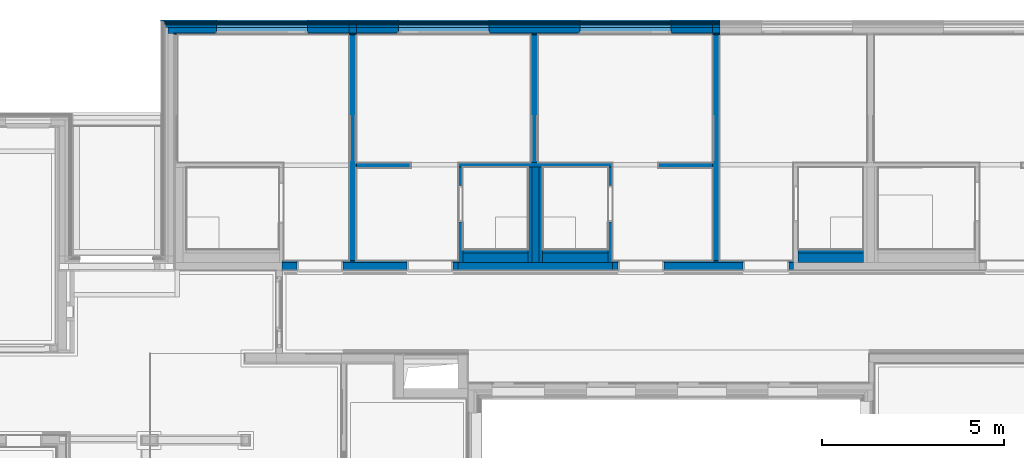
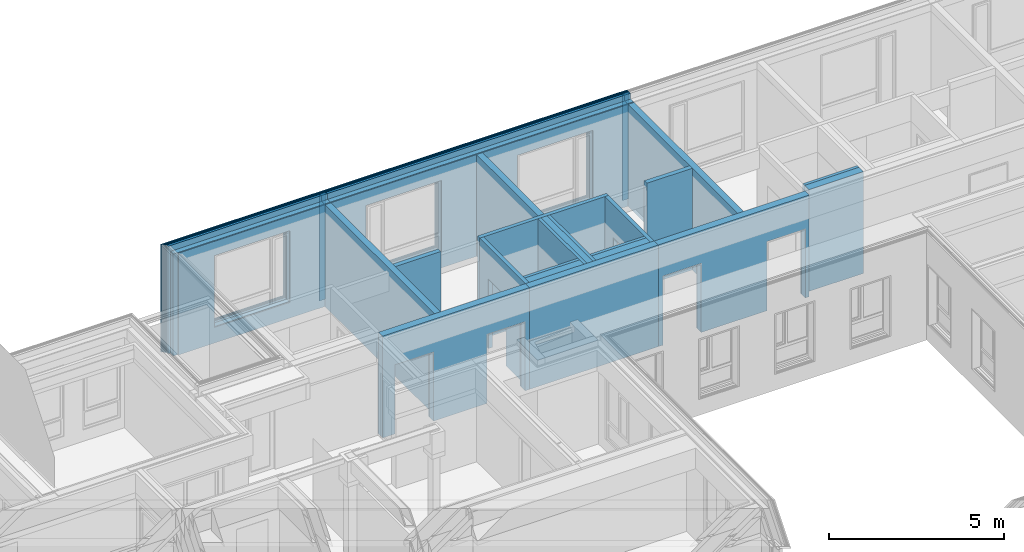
# One storey, part 55 of 222: 50 walls, 31 openings.
"""IFC4 building model written with IfcOpenShell, lengths in metres."""

from ifc_helpers import new_model, entity, si_unit, converted_unit, derived_unit, frame, frame_2d, origin, origin_with_axes, place, context, subcontext, project, spatial, polyline, rectangle, outline, extrude, material, element, save


model = new_model("IFC4")

# Units and contexts
model_context = context("Model", 3, precision=1e-05, world=origin())
body_context = subcontext(model_context, "Body", "Model", "MODEL_VIEW")
ifc_project = project(units=[si_unit("LENGTHUNIT", "METRE"), si_unit("AREAUNIT", "SQUARE_METRE"), si_unit("VOLUMEUNIT", "CUBIC_METRE"), si_unit("MASSUNIT", "GRAM", prefix="KILO"), converted_unit("PLANEANGLEUNIT", "DEGREE", entity("IfcPlaneAngleMeasure", 0.0174532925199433), si_unit("PLANEANGLEUNIT", "RADIAN"), dimensions=[0, 0, 0, 0, 0, 0, 0]), derived_unit("THERMALTRANSMITTANCEUNIT", [(si_unit("POWERUNIT", "WATT"), 1), (si_unit("THERMODYNAMICTEMPERATUREUNIT", "KELVIN"), -1), (si_unit("LENGTHUNIT", "METRE"), -2)]), derived_unit("VOLUMETRICFLOWRATEUNIT", [(si_unit("LENGTHUNIT", "METRE"), 3), (converted_unit("TIMEUNIT", "hour", entity("IfcTimeMeasure", 3600.0), si_unit("TIMEUNIT", "SECOND"), dimensions=[0, 0, 1, 0, 0, 0, 0]), -1), (si_unit("LENGTHUNIT", "METRE"), -1)])], contexts=[model_context])

# Site, building, storey
site_placement = place(None, origin())
site = spatial("IfcSite", under=ifc_project, at=site_placement, Name="Psychiatrie Neubau Wunstorf", CompositionType="ELEMENT")
building_placement = place(site_placement, origin())
building = spatial("IfcBuilding", under=site, at=building_placement, Name="Neubau H2 Stationsgebäude", CompositionType="ELEMENT")
storey_placement = place(building_placement, frame((0.0, 0.0, 3.6)))
storey = spatial("IfcBuildingStorey", under=building, at=storey_placement, Name="H2 Ebene +1", CompositionType="ELEMENT", Elevation=3.6)

# Walls
ifc_material_1 = material(Name="WA-LB")
wall_1_placement = place(storey_placement, frame((75.9, 31.614, 0.0)))
element("IfcWall", 1, at=wall_1_placement, inside=storey, material=ifc_material_1, Name="2x Gipsfaserplatte", context=body_context, shape_type="SweptSolid", body=[
    extrude(rectangle(XDim=0.2, YDim=0.036, at=frame_2d((0.1, 0.018), x_axis=(1.0, 0.0))), origin_with_axes(), (0.0, 0.0, 1.0), 3.55),
])
ifc_material_2 = material(Name="WA-DL")
wall_2_placement = place(storey_placement, frame((75.9, 31.65, 0.0)))
element("IfcWall", 2, at=wall_2_placement, inside=storey, material=ifc_material_2, Name="Holzständer + Zwischendämmung", context=body_context, shape_type="SweptSolid", body=[
    extrude(rectangle(XDim=0.2, YDim=0.16, at=frame_2d((0.1, 0.08), x_axis=(1.0, 0.0))), origin_with_axes(), (0.0, 0.0, 1.0), 3.55),
])
ifc_material_3 = material(Name="WA-DL")
wall_3_placement = place(storey_placement, frame((75.9, 31.81, 0.0)))
element("IfcWall", 3, at=wall_3_placement, inside=storey, material=ifc_material_3, Name="Staffel + Zwischendämmung", context=body_context, shape_type="SweptSolid", body=[
    extrude(rectangle(XDim=0.2, YDim=0.08, at=frame_2d((0.1, 0.04), x_axis=(1.0, 0.0))), origin_with_axes(), (0.0, 0.0, 1.0), 3.75),
])
ifc_material_4 = material(Name="WA-LB")
wall_4_placement = place(storey_placement, frame((75.9, 31.89, 0.0)))
element("IfcWall", 4, at=wall_4_placement, inside=storey, material=ifc_material_4, context=body_context, shape_type="SweptSolid", body=[
    extrude(rectangle(XDim=0.2, YDim=0.036, at=frame_2d((0.1, 0.018), x_axis=(1.0, 0.0))), origin_with_axes(), (0.0, 0.0, 1.0), 3.75),
])
ifc_material_5 = material(Name="WA-KL")
wall_5_placement = place(storey_placement, frame((75.9, 31.926, 0.0)))
element("IfcWall", 5, at=wall_5_placement, inside=storey, material=ifc_material_5, Name="Konterlattung", context=body_context, shape_type="SweptSolid", body=[
    extrude(rectangle(XDim=0.2, YDim=0.024, at=frame_2d((0.1, 0.012), x_axis=(1.0, 0.0))), origin_with_axes(), (0.0, 0.0, 1.0), 3.75),
])
ifc_material_6 = material(Name="WA-TL")
wall_6_placement = place(storey_placement, frame((75.9, 31.95, 0.0)))
element("IfcWall", 6, at=wall_6_placement, inside=storey, material=ifc_material_6, Name="Traglattung", context=body_context, shape_type="SweptSolid", body=[
    extrude(rectangle(XDim=0.2, YDim=0.024, at=frame_2d((0.1, 0.012), x_axis=(1.0, 0.0))), origin_with_axes(), (0.0, 0.0, 1.0), 3.75),
])
ifc_material_7 = material(Name="WA-HS")
wall_7_placement = place(storey_placement, frame((75.9, 31.974, 0.0)))
element("IfcWall", 7, at=wall_7_placement, inside=storey, material=ifc_material_7, Name="Holzschindel", context=body_context, shape_type="SweptSolid", body=[
    extrude(rectangle(XDim=0.2, YDim=0.042, at=frame_2d((0.1, 0.021), x_axis=(1.0, 0.0))), origin_with_axes(), (0.0, 0.0, 1.0), 3.75),
])
ifc_material_8 = material(Name="WA-LB")
wall_8_placement = place(storey_placement, frame((85.9, 31.614, 0.0)))
element("IfcWall", 8, at=wall_8_placement, inside=storey, material=ifc_material_8, Name="2x Gipsfaserplatte", context=body_context, shape_type="SweptSolid", body=[
    extrude(rectangle(XDim=0.2, YDim=0.036, at=frame_2d((0.1, 0.018), x_axis=(1.0, 0.0))), origin_with_axes(), (0.0, 0.0, 1.0), 3.55),
])
ifc_material_9 = material(Name="WA-HD")
wall_9_placement = place(storey_placement, frame((85.9, 31.65, 0.0)))
element("IfcWall", 9, at=wall_9_placement, inside=storey, material=ifc_material_9, Name="Holzständer + Zwischendämmung", context=body_context, shape_type="SweptSolid", body=[
    extrude(rectangle(XDim=0.2, YDim=0.16, at=frame_2d((0.1, 0.08), x_axis=(1.0, 0.0))), origin_with_axes(), (0.0, 0.0, 1.0), 3.55),
])
ifc_material_10 = material(Name="WA-DL")
wall_10_placement = place(storey_placement, frame((85.9, 31.81, 0.0)))
element("IfcWall", 10, at=wall_10_placement, inside=storey, material=ifc_material_10, Name="Staffel + Zwischendämmung", context=body_context, shape_type="SweptSolid", body=[
    extrude(rectangle(XDim=0.2, YDim=0.08, at=frame_2d((0.1, 0.04), x_axis=(1.0, 0.0))), origin_with_axes(), (0.0, 0.0, 1.0), 3.75),
])
ifc_material_11 = material(Name="WA-LB")
wall_11_placement = place(storey_placement, frame((85.9, 31.89, 0.0)))
element("IfcWall", 11, at=wall_11_placement, inside=storey, material=ifc_material_11, context=body_context, shape_type="SweptSolid", body=[
    extrude(rectangle(XDim=0.2, YDim=0.036, at=frame_2d((0.1, 0.018), x_axis=(1.0, 0.0))), origin_with_axes(), (0.0, 0.0, 1.0), 3.75),
])
ifc_material_12 = material(Name="WA-KL")
wall_12_placement = place(storey_placement, frame((85.9, 31.926, 0.0)))
element("IfcWall", 12, at=wall_12_placement, inside=storey, material=ifc_material_12, Name="Konterlattung", context=body_context, shape_type="SweptSolid", body=[
    extrude(rectangle(XDim=0.2, YDim=0.024, at=frame_2d((0.1, 0.012), x_axis=(1.0, 0.0))), origin_with_axes(), (0.0, 0.0, 1.0), 3.75),
])
ifc_material_13 = material(Name="WA-TL")
wall_13_placement = place(storey_placement, frame((85.9, 31.95, 0.0)))
element("IfcWall", 13, at=wall_13_placement, inside=storey, material=ifc_material_13, Name="Traglattung", context=body_context, shape_type="SweptSolid", body=[
    extrude(rectangle(XDim=0.2, YDim=0.024, at=frame_2d((0.1, 0.012), x_axis=(1.0, 0.0))), origin_with_axes(), (0.0, 0.0, 1.0), 3.75),
])
ifc_material_14 = material(Name="WA-HS")
wall_14_placement = place(storey_placement, frame((85.9, 31.974, 0.0)))
element("IfcWall", 14, at=wall_14_placement, inside=storey, material=ifc_material_14, Name="Holzschindel", context=body_context, shape_type="SweptSolid", body=[
    extrude(rectangle(XDim=0.2, YDim=0.042, at=frame_2d((0.1, 0.021), x_axis=(1.0, 0.0))), origin_with_axes(), (0.0, 0.0, 1.0), 3.75),
])

# Wall, opening
ifc_material_15 = material(Name="WA-LB")
wall_15_placement = place(storey_placement, frame((71.075, 31.614, 0.0), z_axis=(0.0, 0.0, 1.0), x_axis=(1.0, -3.01594097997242e-15, 0.0)))
wall_15 = element("IfcWall", 15, at=wall_15_placement, inside=storey, material=ifc_material_15, context=body_context, shape_type="SweptSolid", body=[
    extrude(rectangle(XDim=4.82499999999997, YDim=0.036, at=frame_2d((2.41249999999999, 0.018), x_axis=(1.0, 0.0))), origin_with_axes(), (0.0, 0.0, 1.0), 3.55),
])
opening_1_placement = place(wall_15_placement, frame((1.17499999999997, 0.0, 0.55), z_axis=(0.0, 1.0, 0.0), x_axis=(0.0, 0.0, 1.0)))
element("IfcOpeningElement", 16, at=opening_1_placement, cuts=wall_15, Name="Fensteröffnung", ObjectType="Opening", context=body_context, shape_type="SweptSolid", body=[
    extrude(outline(polyline([(2.5, 2.5), (2.5, 0.0), (0.0, 0.0), (0.0, 2.5), (2.5, 2.5)])), origin_with_axes(), (0.0, 0.0, 1.0), 0.0360000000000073),
])

ifc_material_16 = material(Name="WA-HD")
wall_16_placement = place(storey_placement, frame((70.915, 31.65, 0.0), z_axis=(0.0, 0.0, 1.0), x_axis=(1.0, -2.91914046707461e-15, 0.0)))
wall_16 = element("IfcWall", 17, at=wall_16_placement, inside=storey, material=ifc_material_16, context=body_context, shape_type="SweptSolid", body=[
    extrude(rectangle(XDim=4.98499999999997, YDim=0.16, at=frame_2d((2.49249999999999, 0.08), x_axis=(1.0, 0.0))), origin_with_axes(), (0.0, 0.0, 1.0), 3.55),
])
opening_2_placement = place(wall_16_placement, frame((1.33499999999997, 0.0, 0.55), z_axis=(-2.8421709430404e-15, 1.0, 0.0), x_axis=(0.0, 0.0, 1.0)))
element("IfcOpeningElement", 18, at=opening_2_placement, cuts=wall_16, Name="Fensteröffnung", ObjectType="Opening", context=body_context, shape_type="SweptSolid", body=[
    extrude(outline(polyline([(2.5, 2.5), (2.5, 0.0), (0.0, 0.0), (0.0, 2.5), (2.5, 2.5)])), origin_with_axes(), (0.0, 0.0, 1.0), 0.16),
])

ifc_material_17 = material(Name="WA-DL")
wall_17_placement = place(storey_placement, frame((70.835, 31.81, 0.0), z_axis=(0.0, 0.0, 1.0), x_axis=(1.0, -2.87303360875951e-15, 0.0)))
wall_17 = element("IfcWall", 19, at=wall_17_placement, inside=storey, material=ifc_material_17, context=body_context, shape_type="SweptSolid", body=[
    extrude(rectangle(XDim=5.06499999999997, YDim=0.08, at=frame_2d((2.53249999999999, 0.04), x_axis=(1.0, 0.0))), origin_with_axes(), (0.0, 0.0, 1.0), 3.75),
])
opening_3_placement = place(wall_17_placement, frame((1.41499999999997, 0.0, 0.55), z_axis=(-2.8421709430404e-15, 1.0, 0.0), x_axis=(0.0, 0.0, 1.0)))
element("IfcOpeningElement", 20, at=opening_3_placement, cuts=wall_17, Name="Fensteröffnung", ObjectType="Opening", context=body_context, shape_type="SweptSolid", body=[
    extrude(outline(polyline([(2.5, 2.5), (2.5, 0.0), (0.0, 0.0), (0.0, 2.5), (2.5, 2.5)])), origin_with_axes(), (0.0, 0.0, 1.0), 0.08),
])

ifc_material_18 = material(Name="WA-LB")
wall_18_placement = place(storey_placement, frame((70.799, 31.89, 0.0), z_axis=(0.0, 0.0, 1.0), x_axis=(1.0, -2.85275734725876e-15, 0.0)))
wall_18 = element("IfcWall", 21, at=wall_18_placement, inside=storey, material=ifc_material_18, context=body_context, shape_type="SweptSolid", body=[
    extrude(rectangle(XDim=5.10099999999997, YDim=0.036, at=frame_2d((2.55049999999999, 0.018), x_axis=(1.0, 0.0))), origin_with_axes(), (0.0, 0.0, 1.0), 3.75),
])
opening_4_placement = place(wall_18_placement, frame((1.45099999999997, 0.0, 0.55), z_axis=(0.0, 1.0, 0.0), x_axis=(0.0, 0.0, 1.0)))
element("IfcOpeningElement", 22, at=opening_4_placement, cuts=wall_18, Name="Fensteröffnung", ObjectType="Opening", context=body_context, shape_type="SweptSolid", body=[
    extrude(outline(polyline([(2.5, 2.5), (2.5, 0.0), (0.0, 0.0), (0.0, 2.5), (2.5, 2.5)])), origin_with_axes(), (0.0, 0.0, 1.0), 0.036),
])

ifc_material_19 = material(Name="WA-KL")
wall_19_placement = place(storey_placement, frame((70.775, 31.926, 0.0), z_axis=(0.0, 0.0, 1.0), x_axis=(1.0, -2.83939809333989e-15, 0.0)))
wall_19 = element("IfcWall", 23, at=wall_19_placement, inside=storey, material=ifc_material_19, context=body_context, shape_type="SweptSolid", body=[
    extrude(rectangle(XDim=5.12499999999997, YDim=0.024, at=frame_2d((2.56249999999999, 0.012), x_axis=(1.0, 0.0))), origin_with_axes(), (0.0, 0.0, 1.0), 3.75),
])
opening_5_placement = place(wall_19_placement, frame((1.47499999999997, 0.0, 0.55), z_axis=(0.0, 1.0, 0.0), x_axis=(0.0, 0.0, 1.0)))
element("IfcOpeningElement", 24, at=opening_5_placement, cuts=wall_19, Name="Fensteröffnung", ObjectType="Opening", context=body_context, shape_type="SweptSolid", body=[
    extrude(outline(polyline([(2.5, 2.5), (2.5, 0.0), (0.0, 0.0), (0.0, 2.5), (2.5, 2.5)])), origin_with_axes(), (0.0, 0.0, 1.0), 0.024),
])

ifc_material_20 = material(Name="WA-TL")
wall_20_placement = place(storey_placement, frame((70.751, 31.95, 0.0), z_axis=(0.0, 0.0, 1.0), x_axis=(1.0, -2.82616337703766e-15, 0.0)))
wall_20 = element("IfcWall", 25, at=wall_20_placement, inside=storey, material=ifc_material_20, context=body_context, shape_type="SweptSolid", body=[
    extrude(rectangle(XDim=5.14899999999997, YDim=0.024, at=frame_2d((2.57449999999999, 0.012), x_axis=(1.0, 0.0))), origin_with_axes(), (0.0, 0.0, 1.0), 3.75),
])
opening_6_placement = place(wall_20_placement, frame((1.49899999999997, 0.0, 0.55), z_axis=(0.0, 1.0, 0.0), x_axis=(0.0, 0.0, 1.0)))
element("IfcOpeningElement", 26, at=opening_6_placement, cuts=wall_20, Name="Fensteröffnung", ObjectType="Opening", context=body_context, shape_type="SweptSolid", body=[
    extrude(outline(polyline([(2.5, 2.5), (2.5, 0.0), (0.0, 0.0), (0.0, 2.5), (2.5, 2.5)])), origin_with_axes(), (0.0, 0.0, 1.0), 0.024),
])

ifc_material_21 = material(Name="WA-HS")
wall_21_placement = place(storey_placement, frame((70.709, 31.974, 0.0), z_axis=(0.0, 0.0, 1.0), x_axis=(1.0, -2.80329709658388e-15, 0.0)))
wall_21 = element("IfcWall", 27, at=wall_21_placement, inside=storey, material=ifc_material_21, context=body_context, shape_type="SweptSolid", body=[
    extrude(rectangle(XDim=5.19099999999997, YDim=0.042, at=frame_2d((2.59549999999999, 0.021), x_axis=(1.0, 0.0))), origin_with_axes(), (0.0, 0.0, 1.0), 3.75),
])
opening_7_placement = place(wall_21_placement, frame((1.54099999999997, 0.0, 0.55), z_axis=(-5.41365893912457e-15, 1.0, 0.0), x_axis=(0.0, 0.0, 1.0)))
element("IfcOpeningElement", 28, at=opening_7_placement, cuts=wall_21, Name="Fensteröffnung", ObjectType="Opening", context=body_context, shape_type="SweptSolid", body=[
    extrude(outline(polyline([(2.5, 2.5), (2.5, 0.0), (0.0, 0.0), (0.0, 2.5), (2.5, 2.5)])), origin_with_axes(), (0.0, 0.0, 1.0), 0.042),
])

# Wall, openings
ifc_material_22 = material(Name="WA-LB")
wall_22_placement = place(storey_placement, frame((76.1, 31.614, 0.0)))
wall_22 = element("IfcWall", 29, at=wall_22_placement, inside=storey, material=ifc_material_22, context=body_context, shape_type="SweptSolid", body=[
    extrude(rectangle(XDim=9.8, YDim=0.036, at=frame_2d((4.9, 0.018), x_axis=(1.0, 0.0))), origin_with_axes(), (0.0, 0.0, 1.0), 3.55),
])
opening_8_placement = place(wall_22_placement, frame((6.15, 0.0, 0.55), z_axis=(0.0, 1.0, 0.0), x_axis=(0.0, 0.0, 1.0)))
element("IfcOpeningElement", 30, at=opening_8_placement, cuts=wall_22, Name="Fensteröffnung", ObjectType="Opening", context=body_context, shape_type="SweptSolid", body=[
    extrude(outline(polyline([(2.5, 2.5), (2.5, 0.0), (0.0, 0.0), (0.0, 2.5), (2.5, 2.5)])), origin_with_axes(), (0.0, 0.0, 1.0), 0.036),
])
opening_9_placement = place(wall_22_placement, frame((1.15, 0.0, 0.55), z_axis=(0.0, 1.0, 0.0), x_axis=(0.0, 0.0, 1.0)))
element("IfcOpeningElement", 31, at=opening_9_placement, cuts=wall_22, Name="Fensteröffnung", ObjectType="Opening", context=body_context, shape_type="SweptSolid", body=[
    extrude(outline(polyline([(2.5, 2.5), (2.5, 0.0), (0.0, 0.0), (0.0, 2.5), (2.5, 2.5)])), origin_with_axes(), (0.0, 0.0, 1.0), 0.036),
])

ifc_material_23 = material(Name="WA-HD")
wall_23_placement = place(storey_placement, frame((76.1, 31.65, 0.0)))
wall_23 = element("IfcWall", 32, at=wall_23_placement, inside=storey, material=ifc_material_23, context=body_context, shape_type="SweptSolid", body=[
    extrude(rectangle(XDim=9.8, YDim=0.16, at=frame_2d((4.9, 0.08), x_axis=(1.0, 0.0))), origin_with_axes(), (0.0, 0.0, 1.0), 3.55),
])
opening_10_placement = place(wall_23_placement, frame((6.15, 0.0, 0.55), z_axis=(0.0, 1.0, 0.0), x_axis=(0.0, 0.0, 1.0)))
element("IfcOpeningElement", 33, at=opening_10_placement, cuts=wall_23, Name="Fensteröffnung", ObjectType="Opening", context=body_context, shape_type="SweptSolid", body=[
    extrude(outline(polyline([(2.5, 2.5), (2.5, 0.0), (0.0, 0.0), (0.0, 2.5), (2.5, 2.5)])), origin_with_axes(), (0.0, 0.0, 1.0), 0.16),
])
opening_11_placement = place(wall_23_placement, frame((1.15, 0.0, 0.55), z_axis=(0.0, 1.0, 0.0), x_axis=(0.0, 0.0, 1.0)))
element("IfcOpeningElement", 34, at=opening_11_placement, cuts=wall_23, Name="Fensteröffnung", ObjectType="Opening", context=body_context, shape_type="SweptSolid", body=[
    extrude(outline(polyline([(2.5, 2.5), (2.5, 0.0), (0.0, 0.0), (0.0, 2.5), (2.5, 2.5)])), origin_with_axes(), (0.0, 0.0, 1.0), 0.16),
])

ifc_material_24 = material(Name="WA-DL")
wall_24_placement = place(storey_placement, frame((76.1, 31.81, 0.0)))
wall_24 = element("IfcWall", 35, at=wall_24_placement, inside=storey, material=ifc_material_24, context=body_context, shape_type="SweptSolid", body=[
    extrude(rectangle(XDim=9.8, YDim=0.08, at=frame_2d((4.9, 0.04), x_axis=(1.0, 0.0))), origin_with_axes(), (0.0, 0.0, 1.0), 3.75),
])
opening_12_placement = place(wall_24_placement, frame((6.15, 0.0, 0.55), z_axis=(0.0, 1.0, 0.0), x_axis=(0.0, 0.0, 1.0)))
element("IfcOpeningElement", 36, at=opening_12_placement, cuts=wall_24, Name="Fensteröffnung", ObjectType="Opening", context=body_context, shape_type="SweptSolid", body=[
    extrude(outline(polyline([(2.5, 2.5), (2.5, 0.0), (0.0, 0.0), (0.0, 2.5), (2.5, 2.5)])), origin_with_axes(), (0.0, 0.0, 1.0), 0.08),
])
opening_13_placement = place(wall_24_placement, frame((1.15, 0.0, 0.55), z_axis=(0.0, 1.0, 0.0), x_axis=(0.0, 0.0, 1.0)))
element("IfcOpeningElement", 37, at=opening_13_placement, cuts=wall_24, Name="Fensteröffnung", ObjectType="Opening", context=body_context, shape_type="SweptSolid", body=[
    extrude(outline(polyline([(2.5, 2.5), (2.5, 0.0), (0.0, 0.0), (0.0, 2.5), (2.5, 2.5)])), origin_with_axes(), (0.0, 0.0, 1.0), 0.08),
])

ifc_material_25 = material(Name="WA-LB")
wall_25_placement = place(storey_placement, frame((76.1, 31.89, 0.0)))
wall_25 = element("IfcWall", 38, at=wall_25_placement, inside=storey, material=ifc_material_25, context=body_context, shape_type="SweptSolid", body=[
    extrude(rectangle(XDim=9.8, YDim=0.036, at=frame_2d((4.9, 0.018), x_axis=(1.0, 0.0))), origin_with_axes(), (0.0, 0.0, 1.0), 3.75),
])
opening_14_placement = place(wall_25_placement, frame((1.15, 0.0, 0.55), z_axis=(0.0, 1.0, 0.0), x_axis=(0.0, 0.0, 1.0)))
element("IfcOpeningElement", 39, at=opening_14_placement, cuts=wall_25, Name="Fensteröffnung", ObjectType="Opening", context=body_context, shape_type="SweptSolid", body=[
    extrude(outline(polyline([(2.5, 2.5), (2.5, 0.0), (0.0, 0.0), (0.0, 2.5), (2.5, 2.5)])), origin_with_axes(), (0.0, 0.0, 1.0), 0.036),
])
opening_15_placement = place(wall_25_placement, frame((6.15, 0.0, 0.55), z_axis=(0.0, 1.0, 0.0), x_axis=(0.0, 0.0, 1.0)))
element("IfcOpeningElement", 40, at=opening_15_placement, cuts=wall_25, Name="Fensteröffnung", ObjectType="Opening", context=body_context, shape_type="SweptSolid", body=[
    extrude(outline(polyline([(2.5, 2.5), (2.5, 0.0), (0.0, 0.0), (0.0, 2.5), (2.5, 2.5)])), origin_with_axes(), (0.0, 0.0, 1.0), 0.036),
])

ifc_material_26 = material(Name="WA-KL")
wall_26_placement = place(storey_placement, frame((76.1, 31.926, 0.0)))
wall_26 = element("IfcWall", 41, at=wall_26_placement, inside=storey, material=ifc_material_26, context=body_context, shape_type="SweptSolid", body=[
    extrude(rectangle(XDim=9.8, YDim=0.024, at=frame_2d((4.9, 0.012), x_axis=(1.0, 0.0))), origin_with_axes(), (0.0, 0.0, 1.0), 3.75),
])
opening_16_placement = place(wall_26_placement, frame((1.15, 0.0, 0.55), z_axis=(0.0, 1.0, 0.0), x_axis=(0.0, 0.0, 1.0)))
element("IfcOpeningElement", 42, at=opening_16_placement, cuts=wall_26, Name="Fensteröffnung", ObjectType="Opening", context=body_context, shape_type="SweptSolid", body=[
    extrude(outline(polyline([(2.5, 2.5), (2.5, 0.0), (0.0, 0.0), (0.0, 2.5), (2.5, 2.5)])), origin_with_axes(), (0.0, 0.0, 1.0), 0.024),
])
opening_17_placement = place(wall_26_placement, frame((6.15, 0.0, 0.55), z_axis=(0.0, 1.0, 0.0), x_axis=(0.0, 0.0, 1.0)))
element("IfcOpeningElement", 43, at=opening_17_placement, cuts=wall_26, Name="Fensteröffnung", ObjectType="Opening", context=body_context, shape_type="SweptSolid", body=[
    extrude(outline(polyline([(2.5, 2.5), (2.5, 0.0), (0.0, 0.0), (0.0, 2.5), (2.5, 2.5)])), origin_with_axes(), (0.0, 0.0, 1.0), 0.024),
])

ifc_material_27 = material(Name="WA-TL")
wall_27_placement = place(storey_placement, frame((76.1, 31.95, 0.0)))
wall_27 = element("IfcWall", 44, at=wall_27_placement, inside=storey, material=ifc_material_27, context=body_context, shape_type="SweptSolid", body=[
    extrude(rectangle(XDim=9.8, YDim=0.024, at=frame_2d((4.9, 0.012), x_axis=(1.0, 0.0))), origin_with_axes(), (0.0, 0.0, 1.0), 3.75),
])
opening_18_placement = place(wall_27_placement, frame((1.15, 0.0, 0.55), z_axis=(0.0, 1.0, 0.0), x_axis=(0.0, 0.0, 1.0)))
element("IfcOpeningElement", 45, at=opening_18_placement, cuts=wall_27, Name="Fensteröffnung", ObjectType="Opening", context=body_context, shape_type="SweptSolid", body=[
    extrude(outline(polyline([(2.5, 2.5), (2.5, 0.0), (0.0, 0.0), (0.0, 2.5), (2.5, 2.5)])), origin_with_axes(), (0.0, 0.0, 1.0), 0.024),
])
opening_19_placement = place(wall_27_placement, frame((6.15, 0.0, 0.55), z_axis=(0.0, 1.0, 0.0), x_axis=(0.0, 0.0, 1.0)))
element("IfcOpeningElement", 46, at=opening_19_placement, cuts=wall_27, Name="Fensteröffnung", ObjectType="Opening", context=body_context, shape_type="SweptSolid", body=[
    extrude(outline(polyline([(2.5, 2.5), (2.5, 0.0), (0.0, 0.0), (0.0, 2.5), (2.5, 2.5)])), origin_with_axes(), (0.0, 0.0, 1.0), 0.024),
])

ifc_material_28 = material(Name="WA-HS")
wall_28_placement = place(storey_placement, frame((76.1, 31.974, 0.0)))
wall_28 = element("IfcWall", 47, at=wall_28_placement, inside=storey, material=ifc_material_28, context=body_context, shape_type="SweptSolid", body=[
    extrude(rectangle(XDim=9.8, YDim=0.042, at=frame_2d((4.9, 0.021), x_axis=(1.0, 0.0))), origin_with_axes(), (0.0, 0.0, 1.0), 3.75),
])
opening_20_placement = place(wall_28_placement, frame((6.15, 0.0, 0.55), z_axis=(0.0, 1.0, 0.0), x_axis=(0.0, 0.0, 1.0)))
element("IfcOpeningElement", 48, at=opening_20_placement, cuts=wall_28, Name="Fensteröffnung", ObjectType="Opening", context=body_context, shape_type="SweptSolid", body=[
    extrude(outline(polyline([(2.5, 2.5), (2.5, 0.0), (0.0, 0.0), (0.0, 2.5), (2.5, 2.5)])), origin_with_axes(), (0.0, 0.0, 1.0), 0.042),
])
opening_21_placement = place(wall_28_placement, frame((1.15, 0.0, 0.55), z_axis=(0.0, 1.0, 0.0), x_axis=(0.0, 0.0, 1.0)))
element("IfcOpeningElement", 49, at=opening_21_placement, cuts=wall_28, Name="Fensteröffnung", ObjectType="Opening", context=body_context, shape_type="SweptSolid", body=[
    extrude(outline(polyline([(2.5, 2.5), (2.5, 0.0), (0.0, 0.0), (0.0, 2.5), (2.5, 2.5)])), origin_with_axes(), (0.0, 0.0, 1.0), 0.042),
])

# Walls
ifc_material_29 = material(Name="WI-LB")
wall_29_placement = place(storey_placement, frame((75.9, 31.614, 0.0), z_axis=(0.0, 0.0, 1.0), x_axis=(0.0, -1.0, 0.0)))
element("IfcWall", 50, at=wall_29_placement, inside=storey, material=ifc_material_29, context=body_context, shape_type="SweptSolid", body=[
    extrude(rectangle(XDim=6.26449999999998, YDim=0.2, at=frame_2d((3.13224999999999, 0.1), x_axis=(1.0, 0.0))), origin_with_axes(), (0.0, 0.0, 1.0), 3.55),
])
ifc_material_30 = material(Name="WI-LB")
wall_30_placement = place(storey_placement, frame((80.9, 31.614, 0.0), z_axis=(0.0, 0.0, 1.0), x_axis=(0.0, -1.0, 0.0)))
element("IfcWall", 51, at=wall_30_placement, inside=storey, material=ifc_material_30, context=body_context, shape_type="SweptSolid", body=[
    extrude(rectangle(XDim=3.52449999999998, YDim=0.2, at=frame_2d((1.76224999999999, 0.1), x_axis=(1.0, 0.0))), origin_with_axes(), (0.0, 0.0, 1.0), 3.55),
])
ifc_material_31 = material(Name="WI-LB")
wall_31_placement = place(storey_placement, frame((85.9, 31.614, 0.0), z_axis=(0.0, 0.0, 1.0), x_axis=(0.0, -1.0, 0.0)))
element("IfcWall", 52, at=wall_31_placement, inside=storey, material=ifc_material_31, context=body_context, shape_type="SweptSolid", body=[
    extrude(rectangle(XDim=6.26449999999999, YDim=0.2, at=frame_2d((3.13224999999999, 0.1), x_axis=(1.0, 0.0))), origin_with_axes(), (0.0, 0.0, 1.0), 3.55),
])

# Wall, opening
ifc_material_32 = material(Name="WI-LB")
wall_32_placement = place(storey_placement, frame((78.9, 27.9645, 0.0), z_axis=(0.0, 0.0, 1.0), x_axis=(0.0, -1.0, 0.0)))
wall_32 = element("IfcWall", 53, at=wall_32_placement, inside=storey, material=ifc_material_32, context=body_context, shape_type="SweptSolid", body=[
    extrude(rectangle(XDim=2.615, YDim=0.125, at=frame_2d((1.3075, 0.0625), x_axis=(1.0, 0.0))), origin_with_axes(), (0.0, 0.0, 1.0), 3.55),
])
opening_22_placement = place(wall_32_placement, frame((1.51, 0.125, 0.0), z_axis=(0.0, -1.0, 0.0), x_axis=(0.0, 0.0, 1.0)))
element("IfcOpeningElement", 54, at=opening_22_placement, cuts=wall_32, Name="Türöffnung", ObjectType="Opening", context=body_context, shape_type="SweptSolid", body=[
    extrude(outline(polyline([(2.41, 1.01), (2.41, 0.0), (0.0, 0.0), (0.0, 1.01), (2.41, 1.01)])), origin_with_axes(), (0.0, 0.0, 1.0), 0.125),
])

ifc_material_33 = material(Name="WI-LB")
wall_33_placement = place(storey_placement, frame((83.025, 27.9645, 0.0), z_axis=(0.0, 0.0, 1.0), x_axis=(0.0, -1.0, 0.0)))
wall_33 = element("IfcWall", 55, at=wall_33_placement, inside=storey, material=ifc_material_33, context=body_context, shape_type="SweptSolid", body=[
    extrude(rectangle(XDim=2.615, YDim=0.125, at=frame_2d((1.3075, 0.0625), x_axis=(1.0, 0.0))), origin_with_axes(), (0.0, 0.0, 1.0), 3.55),
])
opening_23_placement = place(wall_33_placement, frame((0.5, 0.0, 0.0), z_axis=(0.0, 1.0, 0.0), x_axis=(0.0, 0.0, 1.0)))
element("IfcOpeningElement", 56, at=opening_23_placement, cuts=wall_33, Name="Türöffnung", ObjectType="Opening", context=body_context, shape_type="SweptSolid", body=[
    extrude(outline(polyline([(2.41, 1.01), (2.41, 0.0), (0.0, 0.0), (0.0, 1.01), (2.41, 1.01)])), origin_with_axes(), (0.0, 0.0, 1.0), 0.125),
])

# Walls
ifc_material_34 = material(Name="WI-LB")
wall_34_placement = place(storey_placement, frame((78.9, 27.9645, 0.0)))
element("IfcWall", 57, at=wall_34_placement, inside=storey, material=ifc_material_34, context=body_context, shape_type="SweptSolid", body=[
    extrude(rectangle(XDim=4.25, YDim=0.125, at=frame_2d((2.125, 0.0625), x_axis=(1.0, 0.0))), origin_with_axes(), (0.0, 0.0, 1.0), 3.55),
])
ifc_material_35 = material(Name="WI-LB")
wall_35_placement = place(storey_placement, frame((76.1, 27.9395000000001, 0.0)))
element("IfcWall", 58, at=wall_35_placement, inside=storey, material=ifc_material_35, context=body_context, shape_type="SweptSolid", body=[
    extrude(rectangle(XDim=1.50000000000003, YDim=0.15, at=frame_2d((0.750000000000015, 0.075), x_axis=(1.0, 0.0))), origin_with_axes(), (0.0, 0.0, 1.0), 3.55),
])
ifc_material_36 = material(Name="WI-LB")
wall_36_placement = place(storey_placement, frame((84.4, 27.9395, 0.0), z_axis=(0.0, 0.0, 1.0), x_axis=(1.0, 3.15291496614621e-14, 0.0)))
element("IfcWall", 59, at=wall_36_placement, inside=storey, material=ifc_material_36, context=body_context, shape_type="SweptSolid", body=[
    extrude(rectangle(XDim=1.49999999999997, YDim=0.15, at=frame_2d((0.749999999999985, 0.075), x_axis=(1.0, 0.0))), origin_with_axes(), (0.0, 0.0, 1.0), 3.55),
])

# Wall, openings
ifc_material_37 = material(Name="WI-HW 60")
wall_37_placement = place(storey_placement, frame((74.055, 25.1175, 0.0), z_axis=(0.0, 0.0, 1.0), x_axis=(1.0, -7.50872818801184e-16, 0.0)))
wall_37 = element("IfcWall", 60, at=wall_37_placement, inside=storey, material=ifc_material_37, context=body_context, shape_type="SweptSolid", body=[
    extrude(rectangle(XDim=4.84499999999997, YDim=0.232, at=frame_2d((2.42249999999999, 0.116), x_axis=(1.0, 0.0))), origin_with_axes(), (0.0, 0.0, 1.0), 3.55),
])
opening_24_placement = place(wall_37_placement, frame((0.409999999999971, 0.0, 0.0), z_axis=(-7.35044209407e-16, 1.0, 0.0), x_axis=(0.0, 0.0, 1.0)))
element("IfcOpeningElement", 61, at=opening_24_placement, cuts=wall_37, Name="Türöffnung", ObjectType="Opening", context=body_context, shape_type="SweptSolid", body=[
    extrude(outline(polyline([(2.41, 1.26), (2.41, 0.0), (0.0, 0.0), (0.0, 1.26), (2.41, 1.26)])), origin_with_axes(), (0.0, 0.0, 1.0), 0.232),
])
opening_25_placement = place(wall_37_placement, frame((3.43499999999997, 0.0, 0.0), z_axis=(0.0, 1.0, 0.0), x_axis=(0.0, 0.0, 1.0)))
element("IfcOpeningElement", 62, at=opening_25_placement, cuts=wall_37, Name="Türöffnung", ObjectType="Opening", context=body_context, shape_type="SweptSolid", body=[
    extrude(outline(polyline([(2.41, 1.26), (2.41, 0.0), (0.0, 0.0), (0.0, 1.26), (2.41, 1.26)])), origin_with_axes(), (0.0, 0.0, 1.0), 0.232),
])

ifc_material_38 = material(Name="WI-LB")
wall_38_placement = place(storey_placement, frame((74.055, 25.3495, 0.0), z_axis=(0.0, 0.0, 1.0), x_axis=(1.0, -7.50872818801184e-16, 0.0)))
wall_38 = element("IfcWall", 63, at=wall_38_placement, inside=storey, material=ifc_material_38, context=body_context, shape_type="SweptSolid", body=[
    extrude(rectangle(XDim=4.84499999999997, YDim=0.0399999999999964, at=frame_2d((2.42249999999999, 0.0199999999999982), x_axis=(1.0, 0.0))), origin_with_axes(), (0.0, 0.0, 1.0), 2.85),
])
opening_26_placement = place(wall_38_placement, frame((0.409999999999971, 0.0, 0.0), z_axis=(-1.42108547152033e-15, 1.0, 0.0), x_axis=(0.0, 0.0, 1.0)))
element("IfcOpeningElement", 64, at=opening_26_placement, cuts=wall_38, Name="Türöffnung", ObjectType="Opening", context=body_context, shape_type="SweptSolid", body=[
    extrude(outline(polyline([(2.41, 1.26), (2.41, 0.0), (0.0, 0.0), (0.0, 1.26), (2.41, 1.26)])), origin_with_axes(), (0.0, 0.0, 1.0), 0.0399999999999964),
])
opening_27_placement = place(wall_38_placement, frame((3.43499999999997, 0.0, 0.0), z_axis=(0.0, 1.0, 0.0), x_axis=(0.0, 0.0, 1.0)))
element("IfcOpeningElement", 65, at=opening_27_placement, cuts=wall_38, Name="Türöffnung", ObjectType="Opening", context=body_context, shape_type="SweptSolid", body=[
    extrude(outline(polyline([(2.41, 1.26), (2.41, 0.0), (0.0, 0.0), (0.0, 1.26), (2.41, 1.26)])), origin_with_axes(), (0.0, 0.0, 1.0), 0.0399999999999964),
])

ifc_material_39 = material(Name="WI-HW 60")
wall_39_placement = place(storey_placement, frame((83.15, 25.1175, 0.0)))
wall_39 = element("IfcWall", 66, at=wall_39_placement, inside=storey, material=ifc_material_39, context=body_context, shape_type="SweptSolid", body=[
    extrude(rectangle(XDim=4.975, YDim=0.232, at=frame_2d((2.4875, 0.116), x_axis=(1.0, 0.0))), origin_with_axes(), (0.0, 0.0, 1.0), 3.55),
])
opening_28_placement = place(wall_39_placement, frame((0.15, 0.0, 0.0), z_axis=(0.0, 1.0, 0.0), x_axis=(0.0, 0.0, 1.0)))
element("IfcOpeningElement", 67, at=opening_28_placement, cuts=wall_39, Name="Türöffnung", ObjectType="Opening", context=body_context, shape_type="SweptSolid", body=[
    extrude(outline(polyline([(2.41, 1.26), (2.41, 0.0), (0.0, 0.0), (0.0, 1.26), (2.41, 1.26)])), origin_with_axes(), (0.0, 0.0, 1.0), 0.232),
])
opening_29_placement = place(wall_39_placement, frame((3.59, 0.0, 0.0), z_axis=(0.0, 1.0, 0.0), x_axis=(0.0, 0.0, 1.0)))
element("IfcOpeningElement", 68, at=opening_29_placement, cuts=wall_39, Name="Türöffnung", ObjectType="Opening", context=body_context, shape_type="SweptSolid", body=[
    extrude(outline(polyline([(2.41, 1.26), (2.41, 0.0), (0.0, 0.0), (0.0, 1.26), (2.41, 1.26)])), origin_with_axes(), (0.0, 0.0, 1.0), 0.232),
])

ifc_material_40 = material(Name="WI-LB")
wall_40_placement = place(storey_placement, frame((83.15, 25.3495, 0.0)))
wall_40 = element("IfcWall", 69, at=wall_40_placement, inside=storey, material=ifc_material_40, context=body_context, shape_type="SweptSolid", body=[
    extrude(rectangle(XDim=4.975, YDim=0.0399999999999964, at=frame_2d((2.4875, 0.0199999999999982), x_axis=(1.0, 0.0))), origin_with_axes(), (0.0, 0.0, 1.0), 2.85),
])
opening_30_placement = place(wall_40_placement, frame((0.15, 0.0, 0.0), z_axis=(0.0, 1.0, 0.0), x_axis=(0.0, 0.0, 1.0)))
element("IfcOpeningElement", 70, at=opening_30_placement, cuts=wall_40, Name="Türöffnung", ObjectType="Opening", context=body_context, shape_type="SweptSolid", body=[
    extrude(outline(polyline([(2.41, 1.26), (2.41, 0.0), (0.0, 0.0), (0.0, 1.26), (2.41, 1.26)])), origin_with_axes(), (0.0, 0.0, 1.0), 0.0399999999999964),
])
opening_31_placement = place(wall_40_placement, frame((3.59, 0.0, 0.0), z_axis=(0.0, 1.0, 0.0), x_axis=(0.0, 0.0, 1.0)))
element("IfcOpeningElement", 71, at=opening_31_placement, cuts=wall_40, Name="Türöffnung", ObjectType="Opening", context=body_context, shape_type="SweptSolid", body=[
    extrude(outline(polyline([(2.41, 1.26), (2.41, 0.0), (0.0, 0.0), (0.0, 1.26), (2.41, 1.26)])), origin_with_axes(), (0.0, 0.0, 1.0), 0.0399999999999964),
])

# Walls
ifc_material_41 = material(Name="WI-HW 60")
wall_41_placement = place(storey_placement, frame((78.9, 25.1175, 0.0)))
element("IfcWall", 72, at=wall_41_placement, inside=storey, material=ifc_material_41, context=body_context, shape_type="SweptSolid", body=[
    extrude(rectangle(XDim=4.25, YDim=0.232, at=frame_2d((2.125, 0.116), x_axis=(1.0, 0.0))), origin_with_axes(), (0.0, 0.0, 1.0), 3.55),
])
ifc_material_42 = material(Name="WI-IW")
wall_42_placement = place(storey_placement, frame((90.05, 25.6995, 0.0), z_axis=(0.0, 0.0, 1.0), x_axis=(-1.0, 0.0, 0.0)))
element("IfcWall", 73, at=wall_42_placement, inside=storey, material=ifc_material_42, context=body_context, shape_type="SweptSolid", body=[
    extrude(rectangle(XDim=1.8, YDim=0.1, at=frame_2d((0.9, 0.05), x_axis=(1.0, 0.0))), origin_with_axes(), (0.0, 0.0, 1.0), 3.55),
])
ifc_material_43 = material(Name="Installationsraum")
wall_43_placement = place(storey_placement, frame((90.05, 25.5995, 0.0), z_axis=(0.0, 0.0, 1.0), x_axis=(-1.0, 0.0, 0.0)))
element("IfcWall", 74, at=wall_43_placement, inside=storey, material=ifc_material_43, context=body_context, shape_type="SweptSolid", body=[
    extrude(rectangle(XDim=1.8, YDim=0.25, at=frame_2d((0.9, 0.125), x_axis=(1.0, 0.0))), origin_with_axes(), (0.0, 0.0, 1.0), 3.55),
])
ifc_material_44 = material(Name="WI-IW")
wall_44_placement = place(storey_placement, frame((83.025, 25.6995, 0.0), z_axis=(0.0, 0.0, 1.0), x_axis=(-1.0, 0.0, 0.0)))
element("IfcWall", 75, at=wall_44_placement, inside=storey, material=ifc_material_44, context=body_context, shape_type="SweptSolid", body=[
    extrude(rectangle(XDim=1.8, YDim=0.1, at=frame_2d((0.9, 0.05), x_axis=(1.0, 0.0))), origin_with_axes(), (0.0, 0.0, 1.0), 3.55),
])
ifc_material_45 = material(Name="Installationsraum")
wall_45_placement = place(storey_placement, frame((83.025, 25.5995, 0.0), z_axis=(0.0, 0.0, 1.0), x_axis=(-1.0, 0.0, 0.0)))
element("IfcWall", 76, at=wall_45_placement, inside=storey, material=ifc_material_45, context=body_context, shape_type="SweptSolid", body=[
    extrude(rectangle(XDim=1.8, YDim=0.25, at=frame_2d((0.9, 0.125), x_axis=(1.0, 0.0))), origin_with_axes(), (0.0, 0.0, 1.0), 3.55),
])
ifc_material_46 = material(Name="WI-IW")
wall_46_placement = place(storey_placement, frame((80.825, 27.9645, 0.0), z_axis=(0.0, 0.0, 1.0), x_axis=(0.0, -1.0, 0.0)))
element("IfcWall", 77, at=wall_46_placement, inside=storey, material=ifc_material_46, context=body_context, shape_type="SweptSolid", body=[
    extrude(rectangle(XDim=2.615, YDim=0.1, at=frame_2d((1.3075, 0.05), x_axis=(1.0, 0.0))), origin_with_axes(), (0.0, 0.0, 1.0), 3.55),
])
ifc_material_47 = material(Name="Installationsraum")
wall_47_placement = place(storey_placement, frame((80.925, 27.9645, 0.0), z_axis=(0.0, 0.0, 1.0), x_axis=(0.0, -1.0, 0.0)))
element("IfcWall", 78, at=wall_47_placement, inside=storey, material=ifc_material_47, context=body_context, shape_type="SweptSolid", body=[
    extrude(rectangle(XDim=2.615, YDim=0.2, at=frame_2d((1.3075, 0.1), x_axis=(1.0, 0.0))), origin_with_axes(), (0.0, 0.0, 1.0), 3.55),
])
ifc_material_48 = material(Name="WI-IW")
wall_48_placement = place(storey_placement, frame((81.125, 27.9645, 0.0), z_axis=(0.0, 0.0, 1.0), x_axis=(0.0, -1.0, 0.0)))
element("IfcWall", 79, at=wall_48_placement, inside=storey, material=ifc_material_48, context=body_context, shape_type="SweptSolid", body=[
    extrude(rectangle(XDim=2.615, YDim=0.1, at=frame_2d((1.3075, 0.05), x_axis=(1.0, 0.0))), origin_with_axes(), (0.0, 0.0, 1.0), 3.55),
])
ifc_material_49 = material(Name="WI-IW")
wall_49_placement = place(storey_placement, frame((80.825, 25.6995, 0.0), z_axis=(0.0, 0.0, 1.0), x_axis=(-1.0, 0.0, 0.0)))
element("IfcWall", 80, at=wall_49_placement, inside=storey, material=ifc_material_49, context=body_context, shape_type="SweptSolid", body=[
    extrude(rectangle(XDim=1.8, YDim=0.1, at=frame_2d((0.9, 0.05), x_axis=(1.0, 0.0))), origin_with_axes(), (0.0, 0.0, 1.0), 3.55),
])
ifc_material_50 = material(Name="Installationsraum")
wall_50_placement = place(storey_placement, frame((80.825, 25.5995, 0.0), z_axis=(0.0, 0.0, 1.0), x_axis=(-1.0, 0.0, 0.0)))
element("IfcWall", 81, at=wall_50_placement, inside=storey, material=ifc_material_50, context=body_context, shape_type="SweptSolid", body=[
    extrude(rectangle(XDim=1.8, YDim=0.25, at=frame_2d((0.9, 0.125), x_axis=(1.0, 0.0))), origin_with_axes(), (0.0, 0.0, 1.0), 3.55),
])

save(model, "model.ifc")
